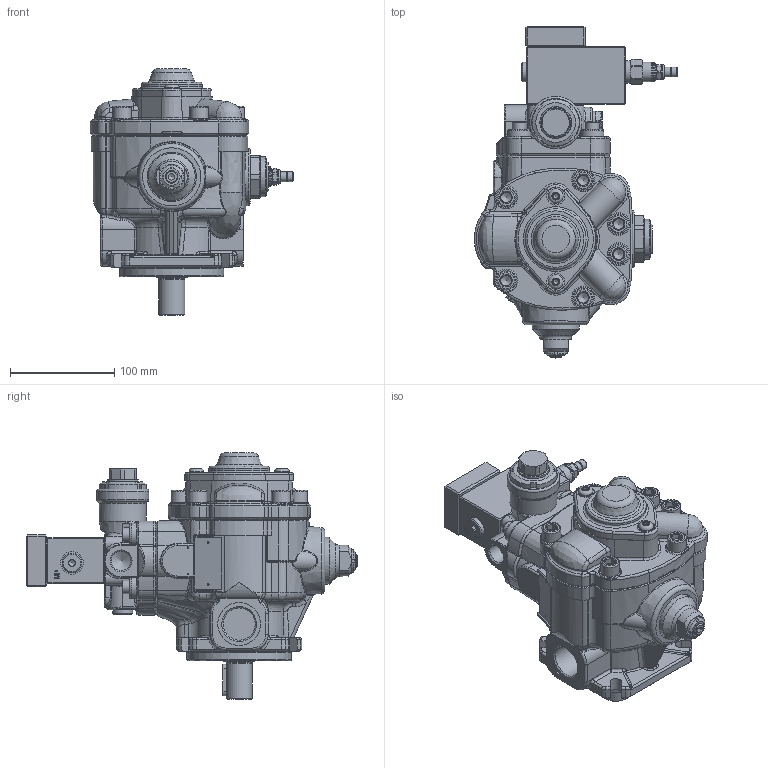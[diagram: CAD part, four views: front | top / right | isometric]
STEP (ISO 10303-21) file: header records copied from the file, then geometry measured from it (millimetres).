
FILE_DESCRIPTION(/* description */ (''),/* implementation_level */ '2;1');
FILE_NAME(/* name */ 'W:\Tecnico\Archivio\Berarma\Dimensioni Pompe\3D Export\Montaggio 3D semplificato\PLP-PHP 1\PHP 1 -A PCS002.stp',/* time_stamp */ '2018-10-09T15:27:28+02:00',/* author */ ('marcop'),/* organization */ (''),/* preprocessor_version */ 'ST-DEVELOPER v17',/* originating_system */ 'Autodesk Inventor 2018',/* authorisation */ '');
FILE_SCHEMA (('AUTOMOTIVE_DESIGN { 1 0 10303 214 3 1 1 }'));
Products named in the file (1): PLP-PHP 1_Shrinkwrap_1
Bounding box: 194.5 x 317.7 x 236 mm (x, y, z)
Volume: 2656867.1 mm3; surface area: 302746.1 mm2
Topology: 2 solids, 2 shells, 2245 faces, 5794 edges, 3625 vertices
Faces by surface type: plane 879, cylinder 536, bspline 363, torus 241, cone 203, sphere 23
Full cylindrical faces by diameter (mm): 1.7 x4, 2.5 x3, 4 x2, 6 x2, 6.5 x1, 7.2 x1, 7.671 x2, 8 x1, 8.5 x4, 9 x4, 9.347 x2, 9.5 x1, 10 x1, 11.445 x2, 12 x4, 13 x4, 13.487 x1, 13.5 x1, 13.767 x2, 14 x5, 14.63 x1, 15 x1, 15.5 x1, 16 x2, 17 x2, 17.399 x1, 17.5 x1, 17.78 x1, 18 x7, 18.631 x1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
Entity records: 82683 total; most frequent: CARTESIAN_POINT 28289, ORIENTED_EDGE 11492, DIRECTION 10257, EDGE_CURVE 5746, AXIS2_PLACEMENT_3D 4002, VERTEX_POINT 3625, EDGE_LOOP 2380, LINE 2253
